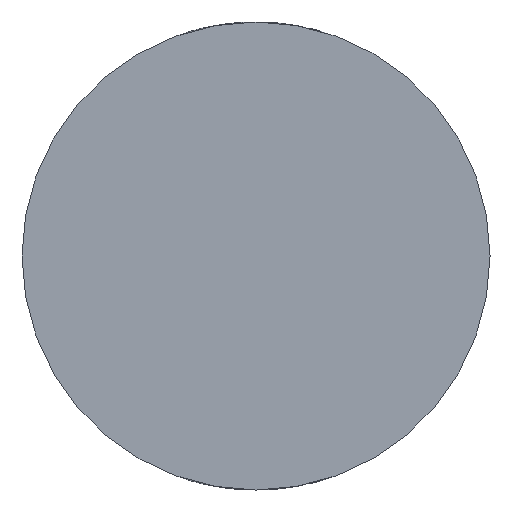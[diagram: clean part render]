
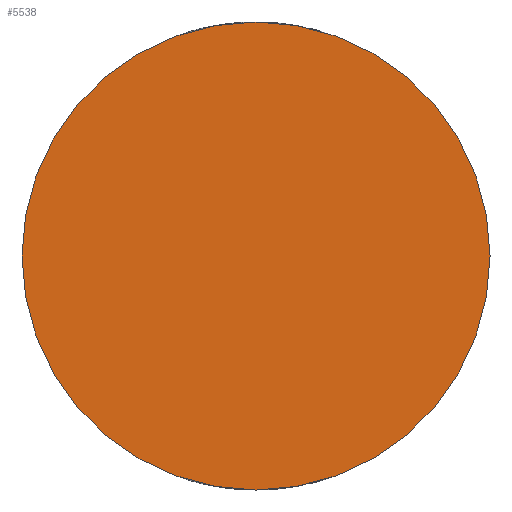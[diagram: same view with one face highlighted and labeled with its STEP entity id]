
A CAD part, front view. The second image highlights one B-rep face of the part: STEP entity #5538.
In plain terms, the highlighted planar face has unit normal (0, -1, 0).
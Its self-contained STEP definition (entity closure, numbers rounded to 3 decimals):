
#174 = DIRECTION ( 'NONE',  ( 0., -1., 0. ) ) ;
#236 = CARTESIAN_POINT ( 'NONE',  ( 64., -46., 0. ) ) ;
#389 = AXIS2_PLACEMENT_3D ( 'NONE', #1878, #174, #5265 ) ;
#406 = ORIENTED_EDGE ( 'NONE', *, *, #2811, .T. ) ;
#749 = CIRCLE ( 'NONE', #389, 64. ) ;
#1318 = DIRECTION ( 'NONE',  ( 1., 0., 0. ) ) ;
#1878 = CARTESIAN_POINT ( 'NONE',  ( 0., -46., 0. ) ) ;
#2368 = DIRECTION ( 'NONE',  ( 0., -1., 0. ) ) ;
#2811 = EDGE_CURVE ( 'NONE', #2854, #3173, #5360, .T. ) ;
#2854 = VERTEX_POINT ( 'NONE', #236 ) ;
#3173 = VERTEX_POINT ( 'NONE', #5237 ) ;
#3481 = FACE_OUTER_BOUND ( 'NONE', #6121, .T. ) ;
#3598 = AXIS2_PLACEMENT_3D ( 'NONE', #6408, #2368, #4674 ) ;
#3658 = ORIENTED_EDGE ( 'NONE', *, *, #5514, .T. ) ;
#3812 = AXIS2_PLACEMENT_3D ( 'NONE', #5734, #6326, #1318 ) ;
#4674 = DIRECTION ( 'NONE',  ( 1., 0., 0. ) ) ;
#5237 = CARTESIAN_POINT ( 'NONE',  ( -64., -46., 0. ) ) ;
#5265 = DIRECTION ( 'NONE',  ( 1., 0., 0. ) ) ;
#5304 = PLANE ( 'NONE',  #3598 ) ;
#5360 = CIRCLE ( 'NONE', #3812, 64. ) ;
#5514 = EDGE_CURVE ( 'NONE', #3173, #2854, #749, .T. ) ;
#5538 = ADVANCED_FACE ( 'NONE', ( #3481 ), #5304, .T. ) ;
#5734 = CARTESIAN_POINT ( 'NONE',  ( 0., -46., 0. ) ) ;
#6121 = EDGE_LOOP ( 'NONE', ( #3658, #406 ) ) ;
#6326 = DIRECTION ( 'NONE',  ( 0., -1., 0. ) ) ;
#6408 = CARTESIAN_POINT ( 'NONE',  ( 0., -46., 0. ) ) ;
